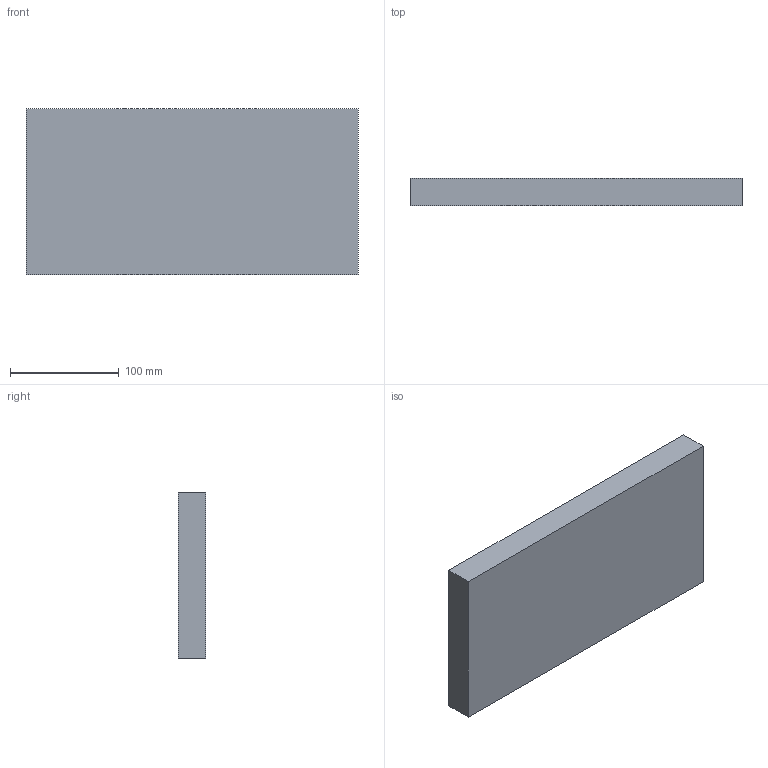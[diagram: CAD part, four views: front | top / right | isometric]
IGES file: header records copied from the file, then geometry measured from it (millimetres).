
Start section: SolidWorks IGES file using NURBS representation for surfaces
Global section: file name: C:\Users\rjehangir\Dropbox\BlueRobotics\BR-Engineering\Models\FLOAT-R1\FLOAT-12X6X1-R1.IGS; native system: SolidWorks 2012; preprocessor: SolidWorks 2012; author: rjehangir; date: 150608.151142; units: inch
Bounding box: 304.8 x 25.4 x 152.4 mm (x, y, z)
Surface area: 116128.8 mm2 (no closed solid volume)
Topology: 0 solids, 0 shells, 6 faces, 24 edges, 24 vertices
Faces by surface type: bspline 6
